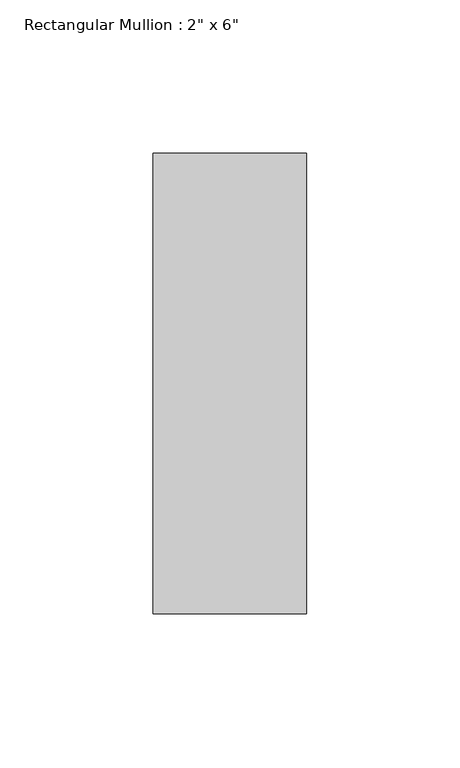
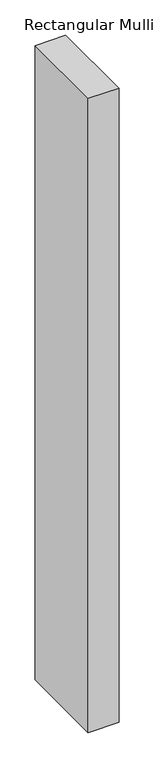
"""IFC4 building model written with IfcOpenShell, lengths in millimetres: member geometry."""

from ifc_helpers import new_model, si_unit, frame, origin, place, context, project, spatial, polyline, outline, extrude, source, transform, mapped, element, save


def member_31c39c6a(model_context):
    return source(origin(), model_context, "Body", "SweptSolid", [
        extrude(outline(polyline([(25.0, 0.0), (25.0, -150.0), (-25.0, -150.0), (-25.0, 0.0), (25.0, 0.0)])), frame((0.0, 0.0, -1094.9999997), z_axis=(0.0, 0.0, 1.0), x_axis=(1.0, 0.0, 0.0)), (0.0, 0.0, 1.0), 1094.9999997),
    ])


if __name__ == "__main__":
    model = new_model("IFC4")
    model_context = context("Model", 3, world=origin())
    ifc_project = project(units=[si_unit("LENGTHUNIT", "METRE", prefix="MILLI")], contexts=[model_context])
    site = spatial("IfcSite", under=ifc_project)
    building = spatial("IfcBuilding", under=site)
    placement = place(None, origin())
    member_shape = member_31c39c6a(model_context)
    element("IfcMember", 1, ObjectType="Rectangular Mullion : 2\" x 6\"", at=placement, inside=building, context=model_context, shape_type="MappedRepresentation", body=[
        mapped(member_shape, transform((0.0, 0.0, 0.0), x_axis=(1.0, 0.0, 0.0), y_axis=(0.0, 1.0, 0.0), z_axis=(0.0, 0.0, 1.0))),
    ])
    save(model, "model.ifc")
